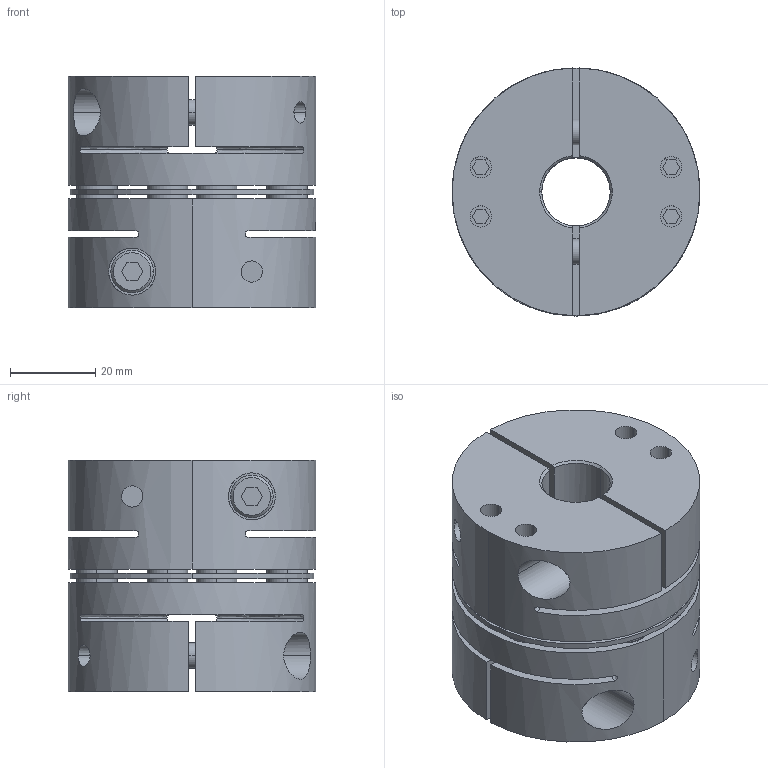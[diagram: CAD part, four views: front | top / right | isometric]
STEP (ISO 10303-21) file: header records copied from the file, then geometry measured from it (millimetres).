
FILE_DESCRIPTION((''),'2;1');
FILE_NAME('TAS-58C-16×16.stp','2022-11-14T22:01:36',(''),(''),'AutoCAD STEP 2000i','AutoCAD 2000i',', , ');
FILE_SCHEMA(('CONFIG_CONTROL_DESIGN'));
Length unit declared in the file: millimetre
Products named in the file (5): TAS-58C-12×12; 忣兜1; TA58C-12-2; CAP-M6×20; TA58C-12
Assembly tree (5 placements, depth 3):
  TAS-58C-12×12
    忣兜1
    TA58C-12-2
      CAP-M6×20
    TA58C-12
      CAP-M6×20
Bounding box: 58 x 58 x 54.25 mm (x, y, z)
Volume: 110467.6 mm3; surface area: 42571.1 mm2
Topology: 1 solids, 1 shells, 360 faces, 893 edges, 611 vertices
Faces by surface type: plane 160, cylinder 148, cone 36, bspline 16
Entity records: 12735 total; most frequent: CARTESIAN_POINT 3821, DIRECTION 1908, ORIENTED_EDGE 1720, EDGE_CURVE 860, AXIS2_PLACEMENT_3D 729, VERTEX_POINT 564, EDGE_LOOP 464, VECTOR 450
